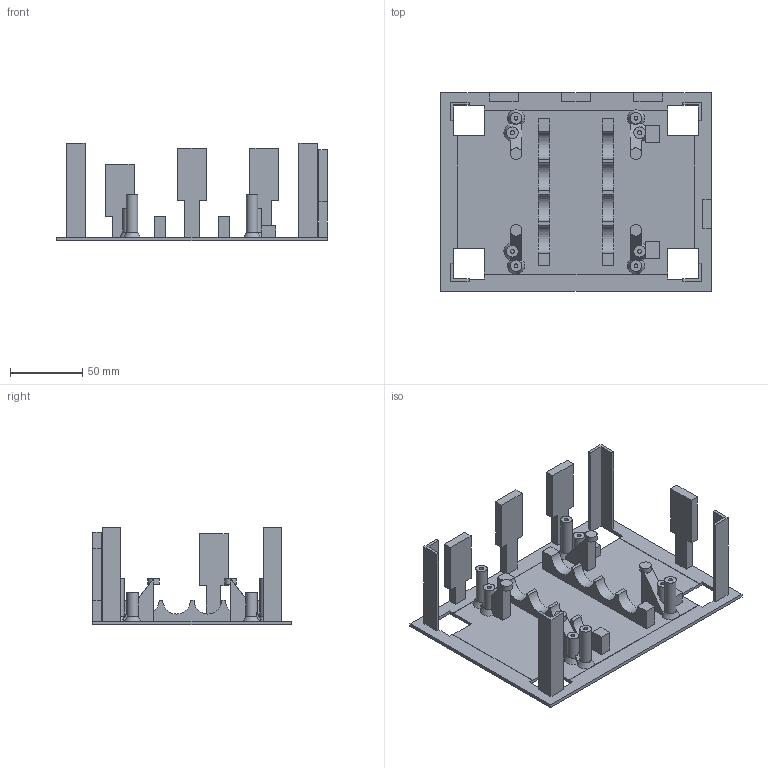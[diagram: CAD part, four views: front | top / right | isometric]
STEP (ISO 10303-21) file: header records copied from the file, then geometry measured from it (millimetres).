
FILE_DESCRIPTION(('Open CASCADE Model'),'2;1');
FILE_NAME('Open CASCADE Shape Model','2026-10-02T15:58:35',('Author'),( 'Open CASCADE'),'Open CASCADE STEP processor 8.0','build123d', 'Unknown');
FILE_SCHEMA(('AUTOMOTIVE_DESIGN { 1 0 10303 214 1 1 1 1 }'));
Length unit declared in the file: millimetre
Products named in the file (1): COMPOUND
Bounding box: 187.4 x 137.4 x 67.6 mm (x, y, z)
Volume: 124218.4 mm3; surface area: 88783.2 mm2
Topology: 1 solids, 1 shells, 259 faces, 706 edges, 460 vertices
Faces by surface type: plane 217, cylinder 34, cone 8
Full cylindrical faces by diameter (mm): 2.7 x8, 4.4 x2, 8 x8
Entity records: 17486 total; most frequent: CARTESIAN_POINT 3896, DIRECTION 2348, LINE 1442, VECTOR 1442, ORIENTED_EDGE 1416, PCURVE 1412, DEFINITIONAL_REPRESENTATION 1412, EDGE_CURVE 706
